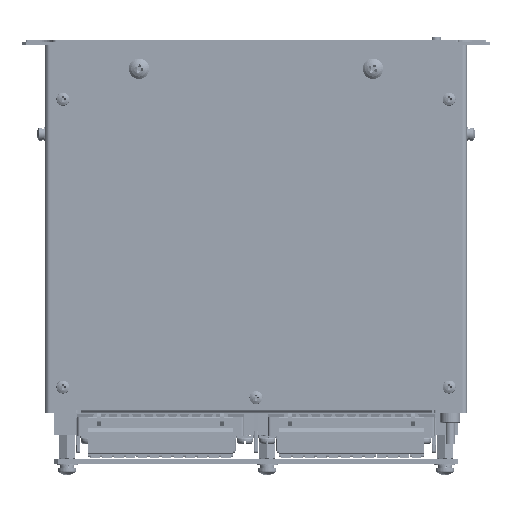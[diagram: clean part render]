
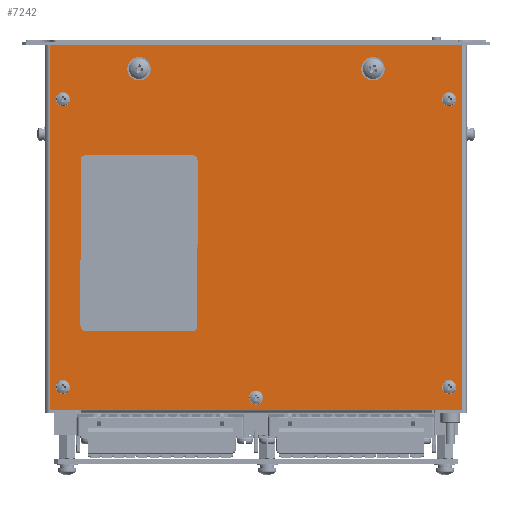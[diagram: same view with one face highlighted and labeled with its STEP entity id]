
A CAD part, left-side view. The second image highlights one B-rep face of the part: STEP entity #7242.
In plain terms, the highlighted planar face has unit normal (-1, 0, 0) as drawn and (0, 0, 1) by its records, which use the part's own axes.
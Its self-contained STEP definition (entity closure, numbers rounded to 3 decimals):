
#7242=ADVANCED_FACE('',(#252266,#252268,#252270,#252272,#252274,#252276,#252278,
#252280),#252282,.T.);
#252266=FACE_BOUND('',#252267,.T.);
#252267=EDGE_LOOP('',(#459622,#459623,#459624,#459625));
#252268=FACE_BOUND('',#252269,.T.);
#252269=EDGE_LOOP('',(#459626));
#252270=FACE_BOUND('',#252271,.T.);
#252271=EDGE_LOOP('',(#459627));
#252272=FACE_BOUND('',#252273,.T.);
#252273=EDGE_LOOP('',(#459628));
#252274=FACE_BOUND('',#252275,.T.);
#252275=EDGE_LOOP('',(#459629));
#252276=FACE_BOUND('',#252277,.T.);
#252277=EDGE_LOOP('',(#459630));
#252278=FACE_BOUND('',#252279,.T.);
#252279=EDGE_LOOP('',(#459631));
#252280=FACE_BOUND('',#252281,.T.);
#252281=EDGE_LOOP('',(#459632));
#252282=PLANE('',#252283);
#252283=AXIS2_PLACEMENT_3D('',#252284,#252285,#252286);
#252284=CARTESIAN_POINT('',(0.,0.,1.));
#252285=DIRECTION('',(0.,0.,1.));
#252286=DIRECTION('',(1.,0.,0.));
#459622=ORIENTED_EDGE('',*,*,#629675,.T.);
#459623=ORIENTED_EDGE('',*,*,#629676,.T.);
#459624=ORIENTED_EDGE('',*,*,#629677,.T.);
#459625=ORIENTED_EDGE('',*,*,#629678,.T.);
#459626=ORIENTED_EDGE('',*,*,#629679,.T.);
#459627=ORIENTED_EDGE('',*,*,#629680,.T.);
#459628=ORIENTED_EDGE('',*,*,#629681,.T.);
#459629=ORIENTED_EDGE('',*,*,#629682,.T.);
#459630=ORIENTED_EDGE('',*,*,#629683,.T.);
#459631=ORIENTED_EDGE('',*,*,#629684,.T.);
#459632=ORIENTED_EDGE('',*,*,#629685,.T.);
#629675=EDGE_CURVE('',#710422,#710423,#710424,.T.);
#629676=EDGE_CURVE('',#710423,#710425,#710426,.T.);
#629677=EDGE_CURVE('',#710425,#710427,#710428,.T.);
#629678=EDGE_CURVE('',#710427,#710422,#710429,.T.);
#629679=EDGE_CURVE('',#710430,#710430,#710431,.F.);
#629680=EDGE_CURVE('',#710432,#710432,#710433,.F.);
#629681=EDGE_CURVE('',#710434,#710434,#710435,.F.);
#629682=EDGE_CURVE('',#710436,#710436,#710437,.F.);
#629683=EDGE_CURVE('',#710438,#710438,#710439,.F.);
#629684=EDGE_CURVE('',#710440,#710440,#710441,.F.);
#629685=EDGE_CURVE('',#710442,#710442,#710443,.F.);
#710422=VERTEX_POINT('',#844980);
#710423=VERTEX_POINT('',#844981);
#710424=LINE('',#844982,#844983);
#710425=VERTEX_POINT('',#844985);
#710426=LINE('',#844986,#844987);
#710427=VERTEX_POINT('',#844989);
#710428=LINE('',#844990,#844991);
#710429=LINE('',#844993,#844994);
#710430=VERTEX_POINT('',#844996);
#710431=CIRCLE('',#844997,1.75);
#710432=VERTEX_POINT('',#845001);
#710433=CIRCLE('',#845002,2.25);
#710434=VERTEX_POINT('',#845006);
#710435=CIRCLE('',#845007,2.25);
#710436=VERTEX_POINT('',#845011);
#710437=CIRCLE('',#845012,1.75);
#710438=VERTEX_POINT('',#845016);
#710439=CIRCLE('',#845017,1.75);
#710440=VERTEX_POINT('',#845021);
#710441=CIRCLE('',#845022,1.75);
#710442=VERTEX_POINT('',#845026);
#710443=CIRCLE('',#845027,1.75);
#844980=CARTESIAN_POINT('',(78.,88.,1.));
#844981=CARTESIAN_POINT('',(-78.,88.,1.));
#844982=CARTESIAN_POINT('',(78.,88.,1.));
#844983=VECTOR('',#844984,1.);
#844984=DIRECTION('',(-1.,0.,0.));
#844985=CARTESIAN_POINT('',(-78.,-88.,1.));
#844986=CARTESIAN_POINT('',(-78.,88.,1.));
#844987=VECTOR('',#844988,1.);
#844988=DIRECTION('',(0.,-1.,0.));
#844989=CARTESIAN_POINT('',(78.,-88.,1.));
#844990=CARTESIAN_POINT('',(-78.,-88.,1.));
#844991=VECTOR('',#844992,1.);
#844992=DIRECTION('',(1.,0.,0.));
#844993=CARTESIAN_POINT('',(78.,-88.,1.));
#844994=VECTOR('',#844995,1.);
#844995=DIRECTION('',(0.,1.,0.));
#844996=CARTESIAN_POINT('',(74.25,0.,1.));
#844997=AXIS2_PLACEMENT_3D('',#844998,#844999,#845000);
#844998=CARTESIAN_POINT('',(72.5,0.,1.));
#844999=DIRECTION('',(0.,0.,1.));
#845000=DIRECTION('',(1.,0.,0.));
#845001=CARTESIAN_POINT('',(-65.75,50.,1.));
#845002=AXIS2_PLACEMENT_3D('',#845003,#845004,#845005);
#845003=CARTESIAN_POINT('',(-68.,50.,1.));
#845004=DIRECTION('',(0.,0.,1.));
#845005=DIRECTION('',(1.,0.,0.));
#845006=CARTESIAN_POINT('',(-65.75,-50.,1.));
#845007=AXIS2_PLACEMENT_3D('',#845008,#845009,#845010);
#845008=CARTESIAN_POINT('',(-68.,-50.,1.));
#845009=DIRECTION('',(0.,0.,1.));
#845010=DIRECTION('',(1.,0.,0.));
#845011=CARTESIAN_POINT('',(-53.25,82.5,1.));
#845012=AXIS2_PLACEMENT_3D('',#845013,#845014,#845015);
#845013=CARTESIAN_POINT('',(-55.,82.5,1.));
#845014=DIRECTION('',(0.,0.,1.));
#845015=DIRECTION('',(1.,0.,0.));
#845016=CARTESIAN_POINT('',(69.75,82.5,1.));
#845017=AXIS2_PLACEMENT_3D('',#845018,#845019,#845020);
#845018=CARTESIAN_POINT('',(68.,82.5,1.));
#845019=DIRECTION('',(0.,0.,1.));
#845020=DIRECTION('',(1.,0.,0.));
#845021=CARTESIAN_POINT('',(-53.25,-82.5,1.));
#845022=AXIS2_PLACEMENT_3D('',#845023,#845024,#845025);
#845023=CARTESIAN_POINT('',(-55.,-82.5,1.));
#845024=DIRECTION('',(0.,0.,1.));
#845025=DIRECTION('',(1.,0.,0.));
#845026=CARTESIAN_POINT('',(69.75,-82.5,1.));
#845027=AXIS2_PLACEMENT_3D('',#845028,#845029,#845030);
#845028=CARTESIAN_POINT('',(68.,-82.5,1.));
#845029=DIRECTION('',(0.,0.,1.));
#845030=DIRECTION('',(1.,0.,0.));
